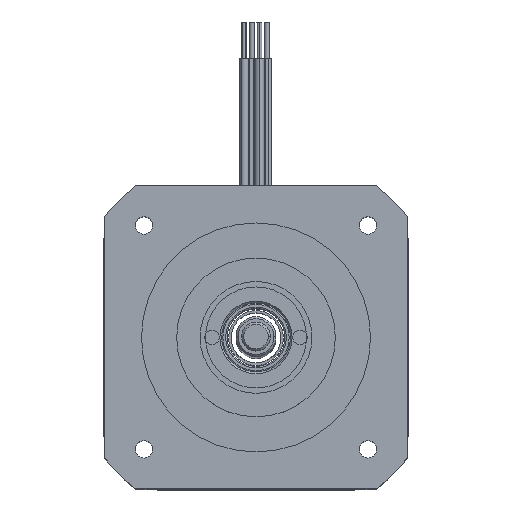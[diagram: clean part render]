
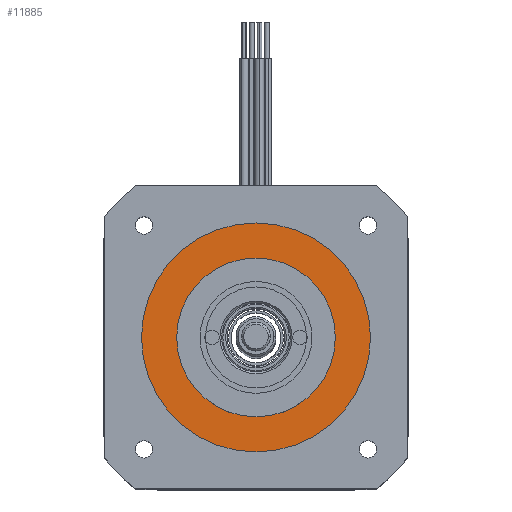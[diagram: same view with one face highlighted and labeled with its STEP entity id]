
A CAD part, top view. The second image highlights one B-rep face of the part: STEP entity #11885.
In plain terms, the highlighted planar face has unit normal (0, 0, 1).
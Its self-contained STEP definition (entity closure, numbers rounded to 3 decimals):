
#2096 = EDGE_LOOP ( 'NONE', ( #5447, #5448 ) ) ;
#2097 = EDGE_LOOP ( 'NONE', ( #5449, #5451 ) ) ;
#2391 = CARTESIAN_POINT ( 'NONE',  ( 2.432, 10.78, 22.88 ) ) ;
#2398 = DIRECTION ( 'NONE',  ( 0., 0., 1. ) ) ;
#2399 = DIRECTION ( 'NONE',  ( 1., 0., 0. ) ) ;
#3156 = PLANE ( 'NONE',  #4441 ) ;
#3157 = CARTESIAN_POINT ( 'NONE',  ( 2.432, 10.78, 22.88 ) ) ;
#3158 = DIRECTION ( 'NONE',  ( 0., 0., 1. ) ) ;
#3159 = DIRECTION ( 'NONE',  ( 1., 0., 0. ) ) ;
#3699 = CARTESIAN_POINT ( 'NONE',  ( 2.432, 10.78, 22.88 ) ) ;
#3700 = DIRECTION ( 'NONE',  ( 0., 0., 1. ) ) ;
#3701 = DIRECTION ( 'NONE',  ( 1., 0., 0. ) ) ;
#3702 = CARTESIAN_POINT ( 'NONE',  ( 2.432, 10.78, 22.88 ) ) ;
#3706 = DIRECTION ( 'NONE',  ( 0., 0., 1. ) ) ;
#3707 = DIRECTION ( 'NONE',  ( 1., 0., 0. ) ) ;
#4207 = AXIS2_PLACEMENT_3D ( 'NONE', #2391, #2398, #2399 ) ;
#4434 = FACE_OUTER_BOUND ( 'NONE', #2097, .T. ) ;
#4436 = FACE_BOUND ( 'NONE', #2096, .T. ) ;
#4441 = AXIS2_PLACEMENT_3D ( 'NONE', #3157, #3158, #3159 ) ;
#4639 = AXIS2_PLACEMENT_3D ( 'NONE', #3699, #3700, #3701 ) ;
#4640 = AXIS2_PLACEMENT_3D ( 'NONE', #3702, #3706, #3707 ) ;
#5447 = ORIENTED_EDGE ( 'NONE', *, *, #12125, .F. ) ;
#5448 = ORIENTED_EDGE ( 'NONE', *, *, #12302, .F. ) ;
#5449 = ORIENTED_EDGE ( 'NONE', *, *, #12123, .T. ) ;
#5451 = ORIENTED_EDGE ( 'NONE', *, *, #11546, .T. ) ;
#6601 = CARTESIAN_POINT ( 'NONE',  ( 2.432, 10.78, 22.88 ) ) ;
#6611 = DIRECTION ( 'NONE',  ( 0., 0., 1. ) ) ;
#6612 = DIRECTION ( 'NONE',  ( 1., 0., 0. ) ) ;
#7126 = CARTESIAN_POINT ( 'NONE',  ( 13.432, 10.78, 22.88 ) ) ;
#7127 = CARTESIAN_POINT ( 'NONE',  ( -8.568, 10.78, 22.88 ) ) ;
#7135 = CARTESIAN_POINT ( 'NONE',  ( 18.307, 10.78, 22.88 ) ) ;
#7136 = CARTESIAN_POINT ( 'NONE',  ( -13.443, 10.78, 22.88 ) ) ;
#8724 = VERTEX_POINT ( 'NONE', #7126 ) ;
#8725 = VERTEX_POINT ( 'NONE', #7127 ) ;
#8733 = VERTEX_POINT ( 'NONE', #7135 ) ;
#8734 = VERTEX_POINT ( 'NONE', #7136 ) ;
#10932 = AXIS2_PLACEMENT_3D ( 'NONE', #6601, #6611, #6612 ) ;
#11143 = CIRCLE ( 'NONE', #10932, 15.875 ) ;
#11245 = CIRCLE ( 'NONE', #4207, 11. ) ;
#11282 = CIRCLE ( 'NONE', #4639, 15.875 ) ;
#11511 = CIRCLE ( 'NONE', #4640, 11. ) ;
#11546 = EDGE_CURVE ( 'NONE', #8734, #8733, #11143, .T. ) ;
#11885 = ADVANCED_FACE ( 'NONE', ( #4436, #4434 ), #3156, .T. ) ;
#12123 = EDGE_CURVE ( 'NONE', #8733, #8734, #11282, .T. ) ;
#12125 = EDGE_CURVE ( 'NONE', #8725, #8724, #11511, .T. ) ;
#12302 = EDGE_CURVE ( 'NONE', #8724, #8725, #11245, .T. ) ;
